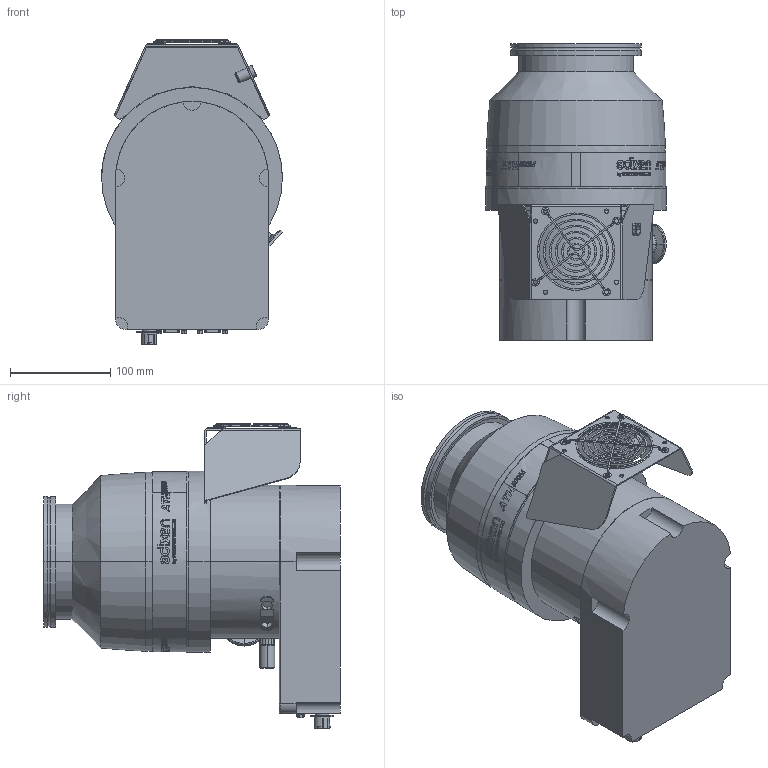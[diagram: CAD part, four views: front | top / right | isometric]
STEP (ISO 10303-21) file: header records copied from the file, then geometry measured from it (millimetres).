
FILE_DESCRIPTION((''),'2;1');
FILE_NAME('ENV-ATH500M-V2311100','2019-05-14T',('RCRIADO'),(''),'PRO/ENGINEER BY PARAMETRIC TECHNOLOGY CORPORATION, 2015280','PRO/ENGINEER BY PARAMETRIC TECHNOLOGY CORPORATION, 2015280','');
FILE_SCHEMA(('CONFIG_CONTROL_DESIGN'));
Products named in the file (1): ENV-ATH500M-V2311100
Bounding box: 180 x 295.09 x 303.25 mm (x, y, z)
Volume: 6572210.5 mm3; surface area: 371581.9 mm2
Topology: 9 solids, 13 shells, 2470 faces, 6688 edges, 4405 vertices
Faces by surface type: bspline 1148, plane 853, cylinder 359, torus 69, cone 33, sphere 8
Entity records: 101166 total; most frequent: CARTESIAN_POINT 45190, ORIENTED_EDGE 13360, DIRECTION 8546, EDGE_CURVE 6680, VERTEX_POINT 4405, VECTOR 3232, LINE 3232, EDGE_LOOP 2705
